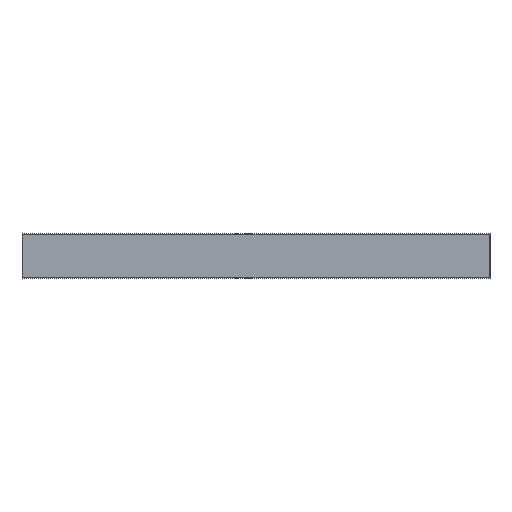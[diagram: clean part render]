
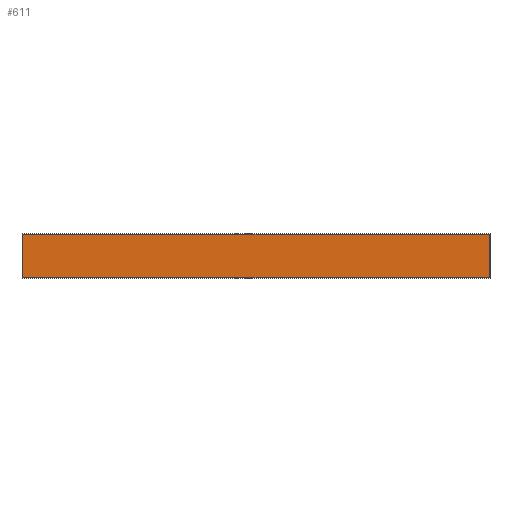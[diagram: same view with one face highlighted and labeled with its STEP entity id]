
A CAD part, top view. The second image highlights one B-rep face of the part: STEP entity #611.
In plain terms, the highlighted planar face has unit normal (0, 0, 1).
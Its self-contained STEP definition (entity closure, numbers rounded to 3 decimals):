
#361=DIRECTION('',(-1.,0.,0.));
#362=VECTOR('',#361,637.);
#363=CARTESIAN_POINT('',(318.5,29.5,3.));
#364=LINE('',#363,#362);
#368=DIRECTION('',(0.,1.,0.));
#369=VECTOR('',#368,59.);
#370=CARTESIAN_POINT('',(318.5,-29.5,3.));
#371=LINE('',#370,#369);
#375=DIRECTION('',(1.,0.,0.));
#376=VECTOR('',#375,637.);
#377=CARTESIAN_POINT('',(-318.5,-29.5,3.));
#378=LINE('',#377,#376);
#382=DIRECTION('',(0.,-1.,0.));
#383=VECTOR('',#382,59.);
#384=CARTESIAN_POINT('',(-318.5,29.5,3.));
#385=LINE('',#384,#383);
#400=CARTESIAN_POINT('',(318.5,29.5,3.));
#401=CARTESIAN_POINT('',(-318.5,29.5,3.));
#402=VERTEX_POINT('',#400);
#403=VERTEX_POINT('',#401);
#424=CARTESIAN_POINT('',(-318.5,-29.5,3.));
#425=CARTESIAN_POINT('',(318.5,-29.5,3.));
#426=VERTEX_POINT('',#424);
#427=VERTEX_POINT('',#425);
#599=CARTESIAN_POINT('',(0.,0.,3.));
#600=DIRECTION('',(0.,0.,1.));
#601=DIRECTION('',(1.,0.,0.));
#602=AXIS2_PLACEMENT_3D('',#599,#600,#601);
#603=PLANE('',#602);
#604=ORIENTED_EDGE('',*,*,#482,.F.);
#605=ORIENTED_EDGE('',*,*,#498,.F.);
#607=ORIENTED_EDGE('',*,*,#606,.F.);
#608=ORIENTED_EDGE('',*,*,#592,.F.);
#609=EDGE_LOOP('',(#604,#605,#607,#608));
#610=FACE_OUTER_BOUND('',#609,.F.);
#482=EDGE_CURVE('',#402,#403,#364,.T.);
#498=EDGE_CURVE('',#427,#402,#371,.T.);
#592=EDGE_CURVE('',#403,#426,#385,.T.);
#606=EDGE_CURVE('',#426,#427,#378,.T.);
#611=ADVANCED_FACE('',(#610),#603,.T.);
